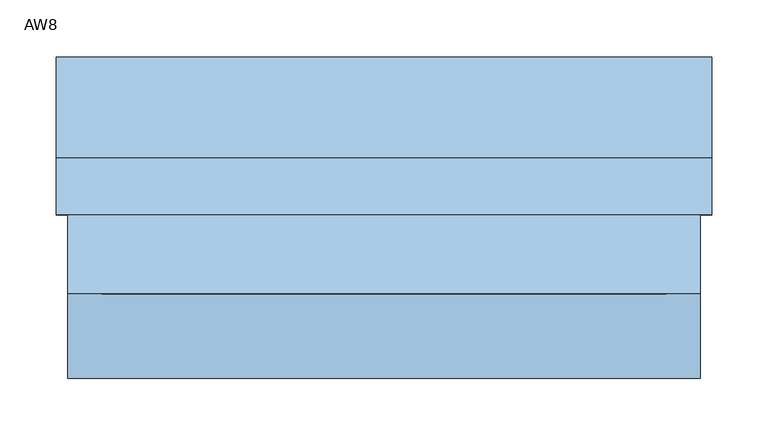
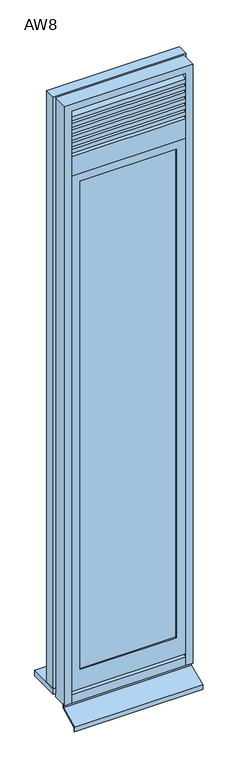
"""IFC4 building model written with IfcOpenShell, lengths in millimetres: window geometry, 営_段窓_FIX/ガラリ : AW8."""

from ifc_helpers import new_model, si_unit, frame, origin, place, context, project, spatial, polyline, outline, extrude, source, transform, mapped, element, save


def aw8_d00d551c(model_context):
    return source(origin(), model_context, "Body", "SweptSolid", [
        extrude(outline(polyline([(-70.0, 2623.2493654), (-25.0, 2643.2493654), (-25.0, 2655.0), (-20.0, 2655.0), (-20.0, 2640.0), (-65.0, 2620.0), (-65.0, 2605.0), (-70.0, 2605.0), (-70.0, 2623.2493654)])), frame((-250.0, 0.0, 0.0), z_axis=(1.0, 0.0, 0.0), x_axis=(0.0, 1.0, 0.0)), (0.0, 0.0, 1.0), 500.0),
        extrude(outline(polyline([(-70.0, 2593.2493654), (-25.0, 2613.2493654), (-25.0, 2625.0), (-20.0, 2625.0), (-20.0, 2610.0), (-65.0, 2590.0), (-65.0, 2575.0), (-70.0, 2575.0), (-70.0, 2593.2493654)])), frame((-250.0, 0.0, 0.0), z_axis=(1.0, 0.0, 0.0), x_axis=(0.0, 1.0, 0.0)), (0.0, 0.0, 1.0), 500.0),
        extrude(outline(polyline([(-70.0, 2563.2493654), (-25.0, 2583.2493654), (-25.0, 2595.0), (-20.0, 2595.0), (-20.0, 2580.0), (-65.0, 2560.0), (-65.0, 2545.0), (-70.0, 2545.0), (-70.0, 2563.2493654)])), frame((-250.0, 0.0, 0.0), z_axis=(1.0, 0.0, 0.0), x_axis=(0.0, 1.0, 0.0)), (0.0, 0.0, 1.0), 500.0),
        extrude(outline(polyline([(-70.0, 2533.2493654), (-25.0, 2553.2493654), (-25.0, 2565.0), (-20.0, 2565.0), (-20.0, 2550.0), (-65.0, 2530.0), (-65.0, 2515.0), (-70.0, 2515.0), (-70.0, 2533.2493654)])), frame((-250.0, 0.0, 0.0), z_axis=(1.0, 0.0, 0.0), x_axis=(0.0, 1.0, 0.0)), (0.0, 0.0, 1.0), 500.0),
        extrude(outline(polyline([(-70.0, 2653.2493654), (-25.0, 2673.2493654), (-25.0, 2685.0), (-20.0, 2685.0), (-20.0, 2670.0), (-65.0, 2650.0), (-65.0, 2635.0), (-70.0, 2635.0), (-70.0, 2653.2493654)])), frame((-250.0, 0.0, 0.0), z_axis=(1.0, 0.0, 0.0), x_axis=(0.0, 1.0, 0.0)), (0.0, 0.0, 1.0), 500.0),
        extrude(outline(polyline([(-70.0, 2503.2493654), (-25.0, 2523.2493654), (-25.0, 2535.0), (-20.0, 2535.0), (-20.0, 2520.0), (-65.0, 2500.0), (-65.0, 2485.0), (-70.0, 2485.0), (-70.0, 2503.2493654)])), frame((-250.0, 0.0, 0.0), z_axis=(1.0, 0.0, 0.0), x_axis=(0.0, 1.0, 0.0)), (0.0, 0.0, 1.0), 500.0),
        extrude(outline(polyline([(0.0, 250.0), (2385.0, 250.0), (2385.0, -250.0), (0.0, -250.0), (0.0, 250.0)]), holes=[polyline([(90.0, 210.0), (90.0, -210.0), (2345.0, -210.0), (2345.0, 210.0), (90.0, 210.0)])]), frame((0.0, -70.0, 0.0), z_axis=(0.0, 1.0, 0.0), x_axis=(0.0, 0.0, 1.0)), (0.0, 0.0, 1.0), 30.0),
        extrude(outline(polyline([(210.0, -60.0), (210.0, -65.0), (-210.0, -65.0), (-210.0, -60.0), (210.0, -60.0)])), frame((0.0, 0.0, 90.0), z_axis=(0.0, 0.0, 1.0), x_axis=(1.0, 0.0, 0.0)), (0.0, 0.0, 1.0), 2255.0),
        extrude(outline(polyline([(290.0, 135.0), (290.0, -5.0), (-290.0, -5.0), (-290.0, 135.0), (290.0, 135.0)])), frame((0.0, 0.0, -35.0), z_axis=(0.0, 0.0, 1.0), x_axis=(1.0, 0.0, 0.0)), (0.0, 0.0, 1.0), 25.0),
        extrude(outline(polyline([(-65.0, -65.0), (-65.0, -50.0), (-60.0, -50.0), (-60.0, -68.1730277), (-145.0014518, -108.1737109), (-145.0014518, -125.0), (-150.0, -125.0), (-150.0, -105.0), (-65.0, -65.0)])), frame((-280.0, 0.0, 0.0), z_axis=(1.0, 0.0, 0.0), x_axis=(0.0, 1.0, 0.0)), (0.0, 0.0, 1.0), 560.0),
        extrude(outline(polyline([(-35.0, -265.0), (2695.0, -265.0), (2695.0, 265.0), (-35.0, 265.0), (-35.0, 290.0), (2720.0, 290.0), (2720.0, -290.0), (-35.0, -290.0), (-35.0, -265.0)])), frame((0.0, -5.0, 0.0), z_axis=(0.0, 1.0, 0.0), x_axis=(0.0, 0.0, 1.0)), (0.0, 0.0, 1.0), 50.0),
        extrude(outline(polyline([(-50.0, -250.0), (2685.0, -250.0), (2685.0, 250.0), (-50.0, 250.0), (-50.0, 280.0), (2715.0, 280.0), (2715.0, -280.0), (-50.0, -280.0), (-50.0, -250.0)])), frame((0.0, -75.0, 0.0), z_axis=(0.0, 1.0, 0.0), x_axis=(0.0, 0.0, 1.0)), (0.0, 0.0, 1.0), 70.0),
        extrude(outline(polyline([(-5.0, -50.0), (-75.0, -50.0), (-75.0, -9.3333333), (-5.0, 0.0), (-5.0, -50.0)])), frame((-250.0, 0.0, 0.0), z_axis=(1.0, 0.0, 0.0), x_axis=(0.0, 1.0, 0.0)), (0.0, 0.0, 1.0), 500.0),
        extrude(outline(polyline([(-75.0, 2385.0), (-75.0, 2475.0), (-5.0, 2485.0), (-5.0, 2385.0), (-75.0, 2385.0)])), frame((-250.0, 0.0, 0.0), z_axis=(1.0, 0.0, 0.0), x_axis=(0.0, 1.0, 0.0)), (0.0, 0.0, 1.0), 500.0),
    ])


if __name__ == "__main__":
    model = new_model("IFC4")
    model_context = context("Model", 3, world=origin())
    ifc_project = project(units=[si_unit("LENGTHUNIT", "METRE", prefix="MILLI")], contexts=[model_context])
    site = spatial("IfcSite", under=ifc_project)
    building = spatial("IfcBuilding", under=site)
    placement = place(None, origin())
    aw8_shape = aw8_d00d551c(model_context)
    element("IfcWindow", 1, ObjectType="営_段窓_FIX/ガラリ : AW8", at=placement, inside=building, context=model_context, shape_type="MappedRepresentation", body=[
        mapped(aw8_shape, transform((0.0, 0.0, 0.0), x_axis=(1.0, 0.0, 0.0), y_axis=(0.0, 1.0, 0.0), z_axis=(0.0, 0.0, 1.0))),
    ])
    save(model, "model.ifc")
